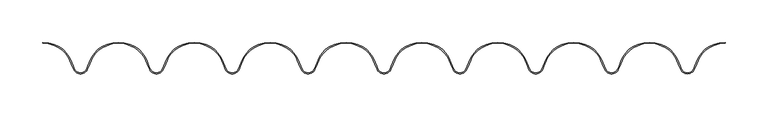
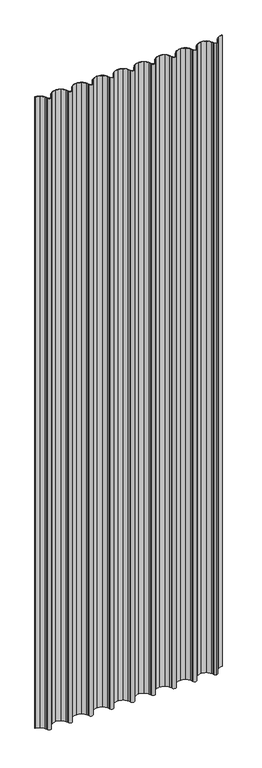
"""IFC4 building model written with IfcOpenShell, lengths in millimetres: plate geometry, Regolare Vertical 801 : Regolare Vertical 801."""

from ifc_helpers import new_model, si_unit, point, frame_2d, origin, origin_with_axes, place, context, project, spatial, polyline, circle_curve, trimmed, segment, composite_curve, outline, extrude, source, transform, mapped, element, save


def plate_fa579688(model_context):
    return source(origin(), model_context, "Body", "SweptSolid", [
        extrude(outline(composite_curve([segment(trimmed(circle_curve(frame_2d((397.1660556, -32.6206681)), 30.6166783), [point((381.1909507, -6.5021495))], [point((368.7389658, -21.2504634))], True, "CARTESIAN"), True, "CONTINUOUS"), segment(polyline([(368.7389658, -21.2504634), (365.8573799, -28.4448583), (364.1967551, -31.9093405)]), True, "CONTINUOUS"), segment(trimmed(circle_curve(frame_2d((356.2059563, -28.0791236)), 8.8613445), [point((364.1967551, -31.9093405))], [point((356.2059563, -36.9404682))], False, "CARTESIAN"), True, "CONTINUOUS"), segment(trimmed(circle_curve(frame_2d((356.2059563, -28.0791236)), 8.8613445), [point((356.2059563, -36.9404682))], [point((348.2151575, -31.9093405))], False, "CARTESIAN"), True, "CONTINUOUS"), segment(polyline([(348.2151575, -31.9093405), (346.5545328, -28.4448583), (343.6729469, -21.2504634)]), True, "CONTINUOUS"), segment(trimmed(circle_curve(frame_2d((315.245857, -32.6206681)), 30.6166783), [point((343.6729469, -21.2504634))], [point((331.2209619, -6.5021495))], True, "CARTESIAN"), True, "CONTINUOUS"), segment(trimmed(circle_curve(frame_2d((311.6802118, -38.4503244)), 37.4503244), [point((331.2209619, -6.5021495))], [point((311.6802118, -1.0))], True, "CARTESIAN"), True, "CONTINUOUS"), segment(trimmed(circle_curve(frame_2d((311.6802118, -38.4503244)), 37.4503244), [point((311.6802118, -1.0))], [point((292.1394616, -6.5021495))], True, "CARTESIAN"), True, "CONTINUOUS"), segment(trimmed(circle_curve(frame_2d((308.1145665, -32.6206681)), 30.6166783), [point((292.1394616, -6.5021495))], [point((279.6874767, -21.2504634))], True, "CARTESIAN"), True, "CONTINUOUS"), segment(polyline([(279.6874767, -21.2504634), (276.8058908, -28.4448583), (275.1452661, -31.9093405)]), True, "CONTINUOUS"), segment(trimmed(circle_curve(frame_2d((267.1544672, -28.0791236)), 8.8613445), [point((275.1452661, -31.9093405))], [point((259.1636684, -31.9093405))], False, "CARTESIAN"), True, "CONTINUOUS"), segment(polyline([(259.1636684, -31.9093405), (257.5030437, -28.4448583), (254.6214578, -21.2504634)]), True, "CONTINUOUS"), segment(trimmed(circle_curve(frame_2d((226.1943679, -32.6206681)), 30.6166783), [point((254.6214578, -21.2504634))], [point((242.1694728, -6.5021495))], True, "CARTESIAN"), True, "CONTINUOUS"), segment(trimmed(circle_curve(frame_2d((222.6287227, -38.4503244)), 37.4503244), [point((242.1694728, -6.5021495))], [point((222.6287227, -1.0))], True, "CARTESIAN"), True, "CONTINUOUS"), segment(trimmed(circle_curve(frame_2d((222.6287227, -38.4503244)), 37.4503244), [point((222.6287227, -1.0))], [point((203.0879726, -6.5021495))], True, "CARTESIAN"), True, "CONTINUOUS"), segment(trimmed(circle_curve(frame_2d((219.0630775, -32.6206681)), 30.6166783), [point((203.0879726, -6.5021495))], [point((190.6359876, -21.2504634))], True, "CARTESIAN"), True, "CONTINUOUS"), segment(polyline([(190.6359876, -21.2504634), (187.7544017, -28.4448583), (186.093777, -31.9093405)]), True, "CONTINUOUS"), segment(trimmed(circle_curve(frame_2d((178.1029782, -28.0791236)), 8.8613445), [point((186.093777, -31.9093405))], [point((170.1121793, -31.9093405))], False, "CARTESIAN"), True, "CONTINUOUS"), segment(polyline([(170.1121793, -31.9093405), (168.4515546, -28.4448583), (165.5699687, -21.2504634)]), True, "CONTINUOUS"), segment(trimmed(circle_curve(frame_2d((137.1428789, -32.6206681)), 30.6166783), [point((165.5699687, -21.2504634))], [point((153.1179838, -6.5021495))], True, "CARTESIAN"), True, "CONTINUOUS"), segment(trimmed(circle_curve(frame_2d((133.5772336, -38.4503244)), 37.4503244), [point((153.1179838, -6.5021495))], [point((133.5772336, -1.0))], True, "CARTESIAN"), True, "CONTINUOUS"), segment(trimmed(circle_curve(frame_2d((133.5772336, -38.4503244)), 37.4503244), [point((133.5772336, -1.0))], [point((114.0364835, -6.5021495))], True, "CARTESIAN"), True, "CONTINUOUS"), segment(trimmed(circle_curve(frame_2d((130.0115884, -32.6206681)), 30.6166783), [point((114.0364835, -6.5021495))], [point((101.5844985, -21.2504634))], True, "CARTESIAN"), True, "CONTINUOUS"), segment(polyline([(101.5844985, -21.2504634), (98.7029126, -28.4448583), (97.0422879, -31.9093405)]), True, "CONTINUOUS"), segment(trimmed(circle_curve(frame_2d((89.0514891, -28.0791236)), 8.8613445), [point((97.0422879, -31.9093405))], [point((81.0606903, -31.9093405))], False, "CARTESIAN"), True, "CONTINUOUS"), segment(polyline([(81.0606903, -31.9093405), (79.4000655, -28.4448583), (76.5184796, -21.2504634)]), True, "CONTINUOUS"), segment(trimmed(circle_curve(frame_2d((48.0913898, -32.6206681)), 30.6166783), [point((76.5184796, -21.2504634))], [point((64.0664947, -6.5021495))], True, "CARTESIAN"), True, "CONTINUOUS"), segment(trimmed(circle_curve(frame_2d((44.5257445, -38.4503244)), 37.4503244), [point((64.0664947, -6.5021495))], [point((44.5257445, -1.0))], True, "CARTESIAN"), True, "CONTINUOUS"), segment(trimmed(circle_curve(frame_2d((44.5257445, -38.4503244)), 37.4503244), [point((44.5257445, -1.0))], [point((24.9849944, -6.5021495))], True, "CARTESIAN"), True, "CONTINUOUS"), segment(trimmed(circle_curve(frame_2d((40.9600993, -32.6206681)), 30.6166783), [point((24.9849944, -6.5021495))], [point((12.5330095, -21.2504634))], True, "CARTESIAN"), True, "CONTINUOUS"), segment(polyline([(12.5330095, -21.2504634), (9.6514235, -28.4448583), (7.9907988, -31.9093405)]), True, "CONTINUOUS"), segment(trimmed(circle_curve(frame_2d((0.0, -28.0791236)), 8.8613445), [point((7.9907988, -31.9093405))], [point((-7.9907988, -31.9093405))], False, "CARTESIAN"), True, "CONTINUOUS"), segment(polyline([(-7.9907988, -31.9093405), (-9.6514235, -28.4448583), (-12.5330095, -21.2504633)]), True, "CONTINUOUS"), segment(trimmed(circle_curve(frame_2d((-40.9600993, -32.6206681)), 30.6166783), [point((-12.5330095, -21.2504633))], [point((-24.9849944, -6.5021495))], True, "CARTESIAN"), True, "CONTINUOUS"), segment(trimmed(circle_curve(frame_2d((-44.5257445, -38.4503244)), 37.4503244), [point((-24.9849944, -6.5021495))], [point((-44.5257445, -1.0))], True, "CARTESIAN"), True, "CONTINUOUS"), segment(trimmed(circle_curve(frame_2d((-44.5257445, -38.4503244)), 37.4503244), [point((-44.5257445, -1.0))], [point((-64.0664947, -6.5021495))], True, "CARTESIAN"), True, "CONTINUOUS"), segment(trimmed(circle_curve(frame_2d((-48.0913898, -32.6206681)), 30.6166783), [point((-64.0664947, -6.5021495))], [point((-76.5184796, -21.2504634))], True, "CARTESIAN"), True, "CONTINUOUS"), segment(polyline([(-76.5184796, -21.2504634), (-79.4000655, -28.4448583), (-81.0606903, -31.9093405)]), True, "CONTINUOUS"), segment(trimmed(circle_curve(frame_2d((-89.0514891, -28.0791236)), 8.8613445), [point((-81.0606903, -31.9093405))], [point((-97.0422879, -31.9093405))], False, "CARTESIAN"), True, "CONTINUOUS"), segment(polyline([(-97.0422879, -31.9093405), (-98.7029126, -28.4448583), (-101.5844985, -21.2504634)]), True, "CONTINUOUS"), segment(trimmed(circle_curve(frame_2d((-130.0115884, -32.6206681)), 30.6166783), [point((-101.5844985, -21.2504634))], [point((-114.0364835, -6.5021495))], True, "CARTESIAN"), True, "CONTINUOUS"), segment(trimmed(circle_curve(frame_2d((-133.5772336, -38.4503244)), 37.4503244), [point((-114.0364835, -6.5021495))], [point((-133.5772336, -1.0))], True, "CARTESIAN"), True, "CONTINUOUS"), segment(trimmed(circle_curve(frame_2d((-133.5772336, -38.4503244)), 37.4503244), [point((-133.5772336, -1.0))], [point((-153.1179838, -6.5021495))], True, "CARTESIAN"), True, "CONTINUOUS"), segment(trimmed(circle_curve(frame_2d((-137.1428789, -32.6206681)), 30.6166783), [point((-153.1179838, -6.5021495))], [point((-165.5699687, -21.2504634))], True, "CARTESIAN"), True, "CONTINUOUS"), segment(polyline([(-165.5699687, -21.2504634), (-168.4515546, -28.4448583), (-170.1121793, -31.9093405)]), True, "CONTINUOUS"), segment(trimmed(circle_curve(frame_2d((-178.1029782, -28.0791236)), 8.8613445), [point((-170.1121793, -31.9093405))], [point((-186.093777, -31.9093405))], False, "CARTESIAN"), True, "CONTINUOUS"), segment(polyline([(-186.093777, -31.9093405), (-187.7544017, -28.4448583), (-190.6359876, -21.2504635)]), True, "CONTINUOUS"), segment(trimmed(circle_curve(frame_2d((-219.0630775, -32.6206681)), 30.6166783), [point((-190.6359876, -21.2504635))], [point((-203.0879726, -6.5021495))], True, "CARTESIAN"), True, "CONTINUOUS"), segment(trimmed(circle_curve(frame_2d((-222.6287227, -38.4503244)), 37.4503244), [point((-203.0879726, -6.5021495))], [point((-222.6287227, -1.0))], True, "CARTESIAN"), True, "CONTINUOUS"), segment(trimmed(circle_curve(frame_2d((-222.6287227, -38.4503244)), 37.4503244), [point((-222.6287227, -1.0))], [point((-242.1694728, -6.5021495))], True, "CARTESIAN"), True, "CONTINUOUS"), segment(trimmed(circle_curve(frame_2d((-226.1943679, -32.6206681)), 30.6166783), [point((-242.1694728, -6.5021495))], [point((-254.6214578, -21.2504635))], True, "CARTESIAN"), True, "CONTINUOUS"), segment(polyline([(-254.6214578, -21.2504635), (-257.5030437, -28.4448583), (-259.1636684, -31.9093405)]), True, "CONTINUOUS"), segment(trimmed(circle_curve(frame_2d((-267.1544672, -28.0791236)), 8.8613445), [point((-259.1636684, -31.9093405))], [point((-275.1452661, -31.9093405))], False, "CARTESIAN"), True, "CONTINUOUS"), segment(polyline([(-275.1452661, -31.9093405), (-276.8058908, -28.4448583), (-279.6874767, -21.2504635)]), True, "CONTINUOUS"), segment(trimmed(circle_curve(frame_2d((-308.1145665, -32.6206681)), 30.6166783), [point((-279.6874767, -21.2504635))], [point((-292.1394616, -6.5021495))], True, "CARTESIAN"), True, "CONTINUOUS"), segment(trimmed(circle_curve(frame_2d((-311.6802118, -38.4503244)), 37.4503244), [point((-292.1394616, -6.5021495))], [point((-311.6802118, -1.0))], True, "CARTESIAN"), True, "CONTINUOUS"), segment(trimmed(circle_curve(frame_2d((-311.6802118, -38.4503244)), 37.4503244), [point((-311.6802118, -1.0))], [point((-331.2209619, -6.5021495))], True, "CARTESIAN"), True, "CONTINUOUS"), segment(trimmed(circle_curve(frame_2d((-315.245857, -32.6206681)), 30.6166783), [point((-331.2209619, -6.5021495))], [point((-343.6729469, -21.2504635))], True, "CARTESIAN"), True, "CONTINUOUS"), segment(polyline([(-343.6729469, -21.2504635), (-346.5545328, -28.4448583), (-348.2151575, -31.9093405)]), True, "CONTINUOUS"), segment(trimmed(circle_curve(frame_2d((-356.2059563, -28.0791236)), 8.8613445), [point((-348.2151575, -31.9093405))], [point((-364.1967551, -31.9093405))], False, "CARTESIAN"), True, "CONTINUOUS"), segment(polyline([(-364.1967551, -31.9093405), (-365.8573799, -28.4448583), (-368.7389658, -21.2504634)]), True, "CONTINUOUS"), segment(trimmed(circle_curve(frame_2d((-397.1660556, -32.6206681)), 30.6166783), [point((-368.7389658, -21.2504634))], [point((-381.1909507, -6.5021495))], True, "CARTESIAN"), True, "CONTINUOUS"), segment(trimmed(circle_curve(frame_2d((-400.7317009, -38.4503244)), 37.4503244), [point((-381.1909507, -6.5021495))], [point((-400.7317009, -1.0))], True, "CARTESIAN"), True, "CONTINUOUS"), segment(polyline([(-400.7317009, -1.0), (-400.7317009, 0.0)]), True, "CONTINUOUS"), segment(trimmed(circle_curve(frame_2d((-400.7317009, -38.4503244)), 38.4503244), [point((-400.7317009, 0.0))], [point((-380.6691729, -5.6490681))], False, "CARTESIAN"), True, "CONTINUOUS"), segment(trimmed(circle_curve(frame_2d((-397.1660556, -32.6206681)), 31.6166783), [point((-380.6691729, -5.6490681))], [point((-367.8105713, -20.8788671))], False, "CARTESIAN"), True, "CONTINUOUS"), segment(polyline([(-367.8105713, -20.8788671), (-364.9413497, -28.0423924), (-363.294996, -31.4771017)]), True, "CONTINUOUS"), segment(trimmed(circle_curve(frame_2d((-356.2059563, -28.0791236)), 7.8613445), [point((-363.294996, -31.4771017))], [point((-349.1169167, -31.4771017))], True, "CARTESIAN"), True, "CONTINUOUS"), segment(polyline([(-349.1169167, -31.4771017), (-347.470563, -28.0423924), (-344.6013413, -20.878867)]), True, "CONTINUOUS"), segment(trimmed(circle_curve(frame_2d((-315.245857, -32.6206681)), 31.6166783), [point((-344.6013413, -20.878867))], [point((-331.7427398, -5.6490681))], False, "CARTESIAN"), True, "CONTINUOUS"), segment(trimmed(circle_curve(frame_2d((-311.6802118, -38.4503244)), 38.4503244), [point((-331.7427398, -5.6490681))], [point((-311.6802118, 0.0))], False, "CARTESIAN"), True, "CONTINUOUS"), segment(trimmed(circle_curve(frame_2d((-311.6802118, -38.4503244)), 38.4503244), [point((-311.6802118, 0.0))], [point((-291.6176838, -5.6490681))], False, "CARTESIAN"), True, "CONTINUOUS"), segment(trimmed(circle_curve(frame_2d((-308.1145665, -32.6206681)), 31.6166783), [point((-291.6176838, -5.6490681))], [point((-278.7590823, -20.878867))], False, "CARTESIAN"), True, "CONTINUOUS"), segment(polyline([(-278.7590823, -20.878867), (-275.8898606, -28.0423924), (-274.2435069, -31.4771017)]), True, "CONTINUOUS"), segment(trimmed(circle_curve(frame_2d((-267.1544672, -28.0791236)), 7.8613445), [point((-274.2435069, -31.4771017))], [point((-260.0654276, -31.4771017))], True, "CARTESIAN"), True, "CONTINUOUS"), segment(polyline([(-260.0654276, -31.4771017), (-258.4190739, -28.0423924), (-255.5498521, -20.8788668)]), True, "CONTINUOUS"), segment(trimmed(circle_curve(frame_2d((-226.1943679, -32.6206681)), 31.6166783), [point((-255.5498521, -20.8788668))], [point((-242.6912507, -5.6490681))], False, "CARTESIAN"), True, "CONTINUOUS"), segment(trimmed(circle_curve(frame_2d((-222.6287227, -38.4503244)), 38.4503244), [point((-242.6912507, -5.6490681))], [point((-222.6287227, 0.0))], False, "CARTESIAN"), True, "CONTINUOUS"), segment(trimmed(circle_curve(frame_2d((-222.6287227, -38.4503244)), 38.4503244), [point((-222.6287227, 0.0))], [point((-202.5661947, -5.6490681))], False, "CARTESIAN"), True, "CONTINUOUS"), segment(trimmed(circle_curve(frame_2d((-219.0630775, -32.6206681)), 31.6166783), [point((-202.5661947, -5.6490681))], [point((-189.7075932, -20.878867))], False, "CARTESIAN"), True, "CONTINUOUS"), segment(polyline([(-189.7075932, -20.878867), (-186.8383715, -28.0423924), (-185.1920178, -31.4771017)]), True, "CONTINUOUS"), segment(trimmed(circle_curve(frame_2d((-178.1029782, -28.0791236)), 7.8613445), [point((-185.1920178, -31.4771017))], [point((-171.0139385, -31.4771017))], True, "CARTESIAN"), True, "CONTINUOUS"), segment(polyline([(-171.0139385, -31.4771017), (-169.3675848, -28.0423924), (-166.4983631, -20.878867)]), True, "CONTINUOUS"), segment(trimmed(circle_curve(frame_2d((-137.1428789, -32.6206681)), 31.6166783), [point((-166.4983631, -20.878867))], [point((-153.6397616, -5.6490681))], False, "CARTESIAN"), True, "CONTINUOUS"), segment(trimmed(circle_curve(frame_2d((-133.5772336, -38.4503244)), 38.4503244), [point((-153.6397616, -5.6490681))], [point((-133.5772336, 0.0))], False, "CARTESIAN"), True, "CONTINUOUS"), segment(trimmed(circle_curve(frame_2d((-133.5772336, -38.4503244)), 38.4503244), [point((-133.5772336, 0.0))], [point((-113.5147056, -5.6490681))], False, "CARTESIAN"), True, "CONTINUOUS"), segment(trimmed(circle_curve(frame_2d((-130.0115884, -32.6206681)), 31.6166783), [point((-113.5147056, -5.6490681))], [point((-100.6561041, -20.878867))], False, "CARTESIAN"), True, "CONTINUOUS"), segment(polyline([(-100.6561041, -20.878867), (-97.7868824, -28.0423924), (-96.1405287, -31.4771017)]), True, "CONTINUOUS"), segment(trimmed(circle_curve(frame_2d((-89.0514891, -28.0791236)), 7.8613445), [point((-96.1405287, -31.4771017))], [point((-81.9624494, -31.4771017))], True, "CARTESIAN"), True, "CONTINUOUS"), segment(polyline([(-81.9624494, -31.4771017), (-80.3160957, -28.0423924), (-77.4468741, -20.8788671)]), True, "CONTINUOUS"), segment(trimmed(circle_curve(frame_2d((-48.0913898, -32.6206681)), 31.6166783), [point((-77.4468741, -20.8788671))], [point((-64.5882725, -5.6490681))], False, "CARTESIAN"), True, "CONTINUOUS"), segment(trimmed(circle_curve(frame_2d((-44.5257445, -38.4503244)), 38.4503244), [point((-64.5882725, -5.6490681))], [point((-44.5257445, 0.0))], False, "CARTESIAN"), True, "CONTINUOUS"), segment(trimmed(circle_curve(frame_2d((-44.5257445, -38.4503244)), 38.4503244), [point((-44.5257445, 0.0))], [point((-24.4632165, -5.6490681))], False, "CARTESIAN"), True, "CONTINUOUS"), segment(trimmed(circle_curve(frame_2d((-40.9600993, -32.6206681)), 31.6166783), [point((-24.4632165, -5.6490681))], [point((-11.6046151, -20.878867))], False, "CARTESIAN"), True, "CONTINUOUS"), segment(polyline([(-11.6046151, -20.878867), (-8.7353934, -28.0423924), (-7.0890396, -31.4771017)]), True, "CONTINUOUS"), segment(trimmed(circle_curve(frame_2d((0.0, -28.0791236)), 7.8613445), [point((-7.0890396, -31.4771017))], [point((7.0890396, -31.4771017))], True, "CARTESIAN"), True, "CONTINUOUS"), segment(polyline([(7.0890396, -31.4771017), (8.7353934, -28.0423924), (11.6046151, -20.878867)]), True, "CONTINUOUS"), segment(trimmed(circle_curve(frame_2d((40.9600993, -32.6206681)), 31.6166783), [point((11.6046151, -20.878867))], [point((24.4632165, -5.6490681))], False, "CARTESIAN"), True, "CONTINUOUS"), segment(trimmed(circle_curve(frame_2d((44.5257445, -38.4503244)), 38.4503244), [point((24.4632165, -5.6490681))], [point((44.5257445, 0.0))], False, "CARTESIAN"), True, "CONTINUOUS"), segment(trimmed(circle_curve(frame_2d((44.5257445, -38.4503244)), 38.4503244), [point((44.5257445, 0.0))], [point((64.5882725, -5.6490681))], False, "CARTESIAN"), True, "CONTINUOUS"), segment(trimmed(circle_curve(frame_2d((48.0913898, -32.6206681)), 31.6166783), [point((64.5882725, -5.6490681))], [point((77.4468741, -20.8788673))], False, "CARTESIAN"), True, "CONTINUOUS"), segment(polyline([(77.4468741, -20.8788673), (80.3160957, -28.0423924), (81.9624494, -31.4771017)]), True, "CONTINUOUS"), segment(trimmed(circle_curve(frame_2d((89.0514891, -28.0791236)), 7.8613445), [point((81.9624494, -31.4771017))], [point((96.1405287, -31.4771017))], True, "CARTESIAN"), True, "CONTINUOUS"), segment(polyline([(96.1405287, -31.4771017), (97.7868824, -28.0423924), (100.6561042, -20.8788669)]), True, "CONTINUOUS"), segment(trimmed(circle_curve(frame_2d((130.0115884, -32.6206681)), 31.6166783), [point((100.6561042, -20.8788669))], [point((113.5147056, -5.6490681))], False, "CARTESIAN"), True, "CONTINUOUS"), segment(trimmed(circle_curve(frame_2d((133.5772336, -38.4503244)), 38.4503244), [point((113.5147056, -5.6490681))], [point((133.5772336, 0.0))], False, "CARTESIAN"), True, "CONTINUOUS"), segment(trimmed(circle_curve(frame_2d((133.5772336, -38.4503244)), 38.4503244), [point((133.5772336, 0.0))], [point((153.6397616, -5.6490681))], False, "CARTESIAN"), True, "CONTINUOUS"), segment(trimmed(circle_curve(frame_2d((137.1428789, -32.6206681)), 31.6166783), [point((153.6397616, -5.6490681))], [point((166.4983631, -20.8788669))], False, "CARTESIAN"), True, "CONTINUOUS"), segment(polyline([(166.4983631, -20.8788669), (169.3675848, -28.0423924), (171.0139385, -31.4771017)]), True, "CONTINUOUS"), segment(trimmed(circle_curve(frame_2d((178.1029782, -28.0791236)), 7.8613445), [point((171.0139385, -31.4771017))], [point((185.1920178, -31.4771017))], True, "CARTESIAN"), True, "CONTINUOUS"), segment(polyline([(185.1920178, -31.4771017), (186.8383715, -28.0423924), (189.7075932, -20.878867)]), True, "CONTINUOUS"), segment(trimmed(circle_curve(frame_2d((219.0630775, -32.6206681)), 31.6166783), [point((189.7075932, -20.878867))], [point((202.5661947, -5.6490681))], False, "CARTESIAN"), True, "CONTINUOUS"), segment(trimmed(circle_curve(frame_2d((222.6287227, -38.4503244)), 38.4503244), [point((202.5661947, -5.6490681))], [point((222.6287227, 0.0))], False, "CARTESIAN"), True, "CONTINUOUS"), segment(trimmed(circle_curve(frame_2d((222.6287227, -38.4503244)), 38.4503244), [point((222.6287227, 0.0))], [point((242.6912507, -5.6490681))], False, "CARTESIAN"), True, "CONTINUOUS"), segment(trimmed(circle_curve(frame_2d((226.1943679, -32.6206681)), 31.6166783), [point((242.6912507, -5.6490681))], [point((255.5498522, -20.878867))], False, "CARTESIAN"), True, "CONTINUOUS"), segment(polyline([(255.5498522, -20.878867), (258.4190739, -28.0423924), (260.0654276, -31.4771017)]), True, "CONTINUOUS"), segment(trimmed(circle_curve(frame_2d((267.1544672, -28.0791236)), 7.8613445), [point((260.0654276, -31.4771017))], [point((274.2435069, -31.4771017))], True, "CARTESIAN"), True, "CONTINUOUS"), segment(polyline([(274.2435069, -31.4771017), (275.8898606, -28.0423924), (278.7590823, -20.8788669)]), True, "CONTINUOUS"), segment(trimmed(circle_curve(frame_2d((308.1145665, -32.6206681)), 31.6166783), [point((278.7590823, -20.8788669))], [point((291.6176838, -5.6490681))], False, "CARTESIAN"), True, "CONTINUOUS"), segment(trimmed(circle_curve(frame_2d((311.6802118, -38.4503244)), 38.4503244), [point((291.6176838, -5.6490681))], [point((311.6802118, 0.0))], False, "CARTESIAN"), True, "CONTINUOUS"), segment(trimmed(circle_curve(frame_2d((311.6802118, -38.4503244)), 38.4503244), [point((311.6802118, 0.0))], [point((331.7427398, -5.6490681))], False, "CARTESIAN"), True, "CONTINUOUS"), segment(trimmed(circle_curve(frame_2d((315.245857, -32.6206681)), 31.6166783), [point((331.7427398, -5.6490681))], [point((344.6013413, -20.8788671))], False, "CARTESIAN"), True, "CONTINUOUS"), segment(polyline([(344.6013413, -20.8788671), (347.470563, -28.0423924), (349.1169167, -31.4771017)]), True, "CONTINUOUS"), segment(trimmed(circle_curve(frame_2d((356.2059563, -28.0791236)), 7.8613445), [point((349.1169167, -31.4771017))], [point((356.2059563, -35.9404682))], True, "CARTESIAN"), True, "CONTINUOUS"), segment(trimmed(circle_curve(frame_2d((356.2059563, -28.0791236)), 7.8613445), [point((356.2059563, -35.9404682))], [point((363.294996, -31.4771017))], True, "CARTESIAN"), True, "CONTINUOUS"), segment(polyline([(363.294996, -31.4771017), (364.9413497, -28.0423924), (367.8105714, -20.878867)]), True, "CONTINUOUS"), segment(trimmed(circle_curve(frame_2d((397.1660556, -32.6206681)), 31.6166783), [point((367.8105714, -20.878867))], [point((380.6691729, -5.6490681))], False, "CARTESIAN"), True, "CONTINUOUS"), segment(trimmed(circle_curve(frame_2d((400.7317009, -38.4503244)), 38.4503244), [point((380.6691729, -5.6490681))], [point((400.7317009, 0.0))], False, "CARTESIAN"), True, "CONTINUOUS"), segment(polyline([(400.7317009, 0.0), (400.7317009, -1.0)]), True, "CONTINUOUS"), segment(trimmed(circle_curve(frame_2d((400.7317009, -38.4503244)), 37.4503244), [point((400.7317009, -1.0))], [point((381.1909507, -6.5021495))], True, "CARTESIAN"), True, "CONTINUOUS")], self_intersect=False)), origin_with_axes(), (0.0, 0.0, 1.0), 2859.2009216),
    ])


if __name__ == "__main__":
    model = new_model("IFC4")
    model_context = context("Model", 3, world=origin())
    ifc_project = project(units=[si_unit("LENGTHUNIT", "METRE", prefix="MILLI")], contexts=[model_context])
    site = spatial("IfcSite", under=ifc_project)
    building = spatial("IfcBuilding", under=site)
    placement = place(None, origin())
    plate_shape = plate_fa579688(model_context)
    element("IfcPlate", 1, ObjectType="Regolare Vertical 801 : Regolare Vertical 801", at=placement, inside=building, context=model_context, shape_type="MappedRepresentation", body=[
        mapped(plate_shape, transform((0.0, 0.0, 0.0), x_axis=(1.0, 0.0, 0.0), y_axis=(0.0, 1.0, 0.0), z_axis=(0.0, 0.0, 1.0))),
    ])
    save(model, "model.ifc")
